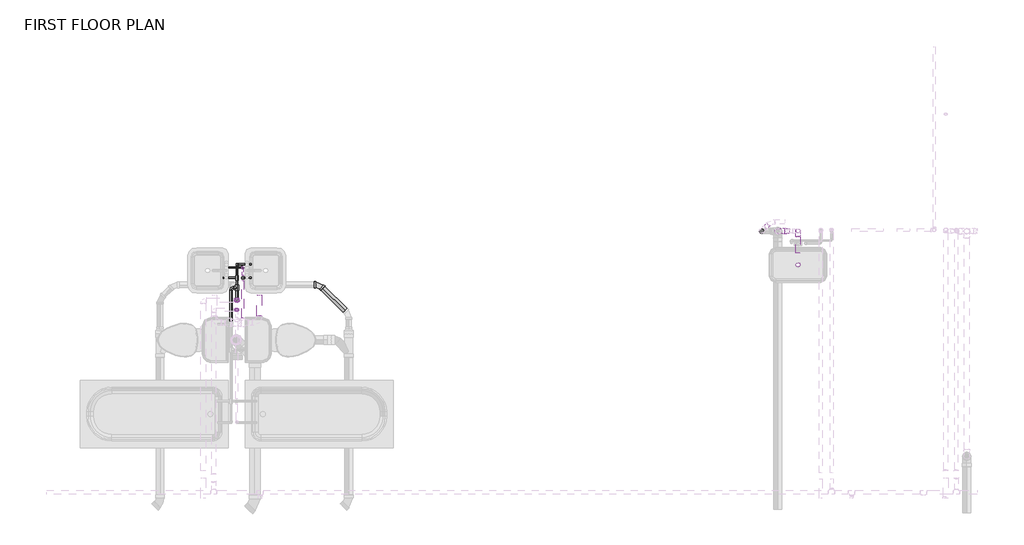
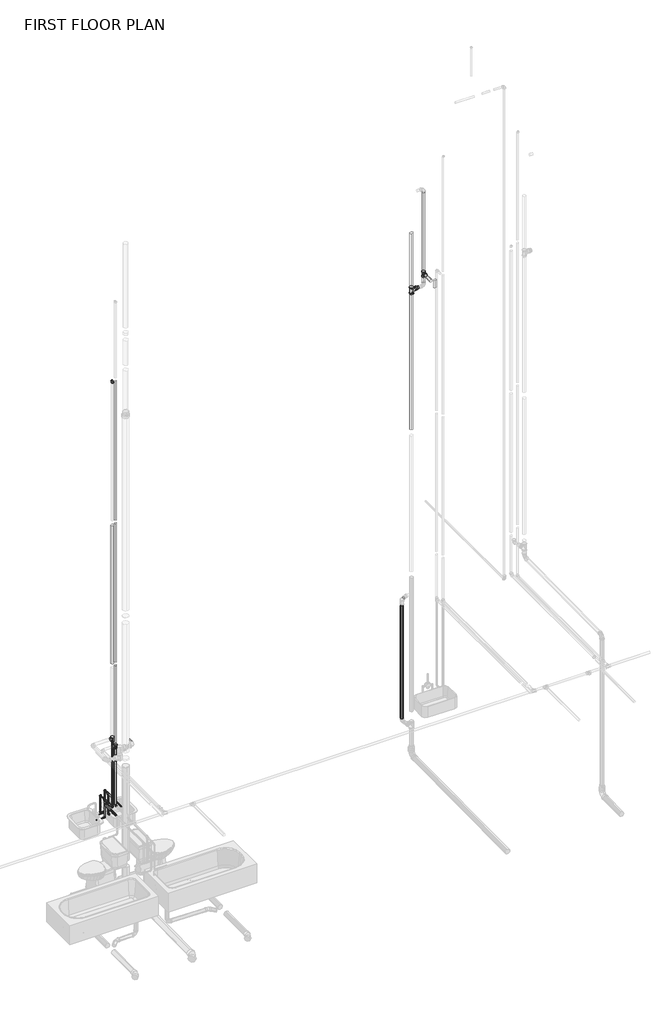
# One storey, part 15 of 29: 31 pipe segments, 28 pipe fittings.
"""IFC4 building model written with IfcOpenShell, lengths in millimetres."""

from ifc_helpers import new_model, si_unit, point, frame, frame_2d, origin, place, context, project, spatial, circle_curve, trimmed, segment, composite_curve, outline, extrude, transform, mapped, element, save
from ifc_brep_helpers import plane_surface, cylinder_surface, advanced_brep
from components import bend_pvc_sch_40_dwv_standard_cc806abd, pipe_elbow_copper_k_feaaf02c, pipe_elbow_copper_k_aad62f2d, pipe_elbow_copper_k_a25a5501, pipe_tee_copper_k_36278b8a, pipe_tee_copper_k_7127fd44, pipe_tee_copper_k_ee363fbf, pipe_tee_copper_k_feafe2f1, pipe_transition_copper_k_859ff352, pipe_transition_copper_k_a6a91236, pipe_transition_copper_k_b4f16853, pipe_transition_copper_k_5615079d, pipe_transition_copper_k_7e8f21d9, pipe_transition_copper_k_3e141881, reducer_pvc_sch_40_dwv_standard_f288b410, tee_sanitary_pvc_sch_40_dwv_standard_bd882a60, tee_sanitary_pvc_sch_40_dwv_standard_ad422280

model = new_model("IFC4")

# Units and contexts
model_context = context("Model", 3, world=origin())
ifc_project = project(units=[si_unit("LENGTHUNIT", "METRE", prefix="MILLI")], contexts=[model_context])

# Site, building, storey
site = spatial("IfcSite", under=ifc_project)
building = spatial("IfcBuilding", under=site)
storey = spatial("IfcBuildingStorey", under=building, Name="FIRST FLOOR PLAN", Elevation=0.0)

# Pipe fittings
placement = place(None, origin())
bend_pvc_sch_40_dwv_standard_shape = bend_pvc_sch_40_dwv_standard_cc806abd(model_context)
element("IfcPipeFitting", 1, ObjectType="Bend - PVC - Sch 40 - DWV : Standard", at=placement, inside=storey, context=model_context, shape_type="MappedRepresentation", body=[
    mapped(bend_pvc_sch_40_dwv_standard_shape, transform((3052.2165171, 8305.973803, -494.0419793), x_axis=(-0.7070684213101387, 0.707068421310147, 0.010416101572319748), y_axis=(-0.7070681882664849, -0.7071320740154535, 0.00433670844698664), z_axis=(0.01043190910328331, -0.004298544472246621, 0.99993634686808))),
])
pipe_elbow_copper_k_shape = pipe_elbow_copper_k_feaaf02c(model_context)
element("IfcPipeFitting", 2, ObjectType="Pipe Elbow : Copper- K", at=placement, inside=storey, context=model_context, shape_type="MappedRepresentation", body=[
    mapped(pipe_elbow_copper_k_shape, transform((2118.3084875, 8021.1606631, 1219.2), x_axis=(0.0, 0.0, -1.0), y_axis=(0.0, -1.0, 0.0), z_axis=(-1.0, 0.0, 0.0))),
])
pipe_elbow_copper_k_2_shape = pipe_elbow_copper_k_aad62f2d(model_context)
element("IfcPipeFitting", 3, ObjectType="Pipe Elbow : Copper- K", at=placement, inside=storey, context=model_context, shape_type="MappedRepresentation", body=[
    mapped(pipe_elbow_copper_k_2_shape, transform((2121.4834875, 8536.03262, 1117.6), x_axis=(0.0, 1.0, 0.0), y_axis=(0.0, 0.0, -1.0), z_axis=(-1.0, 0.0, 0.0))),
])
element("IfcPipeFitting", 4, ObjectType="Pipe Elbow : Copper- K", at=placement, inside=storey, context=model_context, shape_type="MappedRepresentation", body=[
    mapped(pipe_elbow_copper_k_2_shape, transform((2121.4834875, 8536.03262, 762.0), x_axis=(0.0, 0.0, -1.0), y_axis=(1.0, 0.0, 0.0), z_axis=(0.0, -1.0, 0.0))),
])
element("IfcPipeFitting", 5, ObjectType="Pipe Elbow : Copper- K", at=placement, inside=storey, context=model_context, shape_type="MappedRepresentation", body=[
    mapped(pipe_elbow_copper_k_2_shape, transform((2121.4834875, 8383.3740436, 762.0), x_axis=(0.0, 0.0, -1.0), y_axis=(-1.0, 0.0, 0.0), z_axis=(0.0, 1.0, 0.0))),
])
element("IfcPipeFitting", 6, ObjectType="Pipe Elbow : Copper- K", at=placement, inside=storey, context=model_context, shape_type="MappedRepresentation", body=[
    mapped(pipe_elbow_copper_k_2_shape, transform((2186.5709875, 8501.0968309, 1219.2), x_axis=(0.0, 1.0, 0.0), y_axis=(0.0, 0.0, -1.0), z_axis=(-1.0, 0.0, 0.0))),
])
element("IfcPipeFitting", 7, ObjectType="Pipe Elbow : Copper- K", at=placement, inside=storey, context=model_context, shape_type="MappedRepresentation", body=[
    mapped(pipe_elbow_copper_k_2_shape, transform((2186.5709875, 8501.0968309, 762.0), x_axis=(0.0, 0.0, -1.0), y_axis=(-1.0, 0.0, 0.0), z_axis=(0.0, 1.0, 0.0))),
])
element("IfcPipeFitting", 8, ObjectType="Pipe Elbow : Copper- K", at=placement, inside=storey, context=model_context, shape_type="MappedRepresentation", body=[
    mapped(pipe_elbow_copper_k_2_shape, transform((2186.5709875, 8383.3740436, 792.4601563), x_axis=(0.0, 0.0, -1.0), y_axis=(1.0, 0.0, 0.0), z_axis=(0.0, -1.0, 0.0))),
])
pipe_elbow_copper_k_3_shape = pipe_elbow_copper_k_a25a5501(model_context)
element("IfcPipeFitting", 9, ObjectType="Pipe Elbow : Copper- K", at=placement, inside=storey, context=model_context, shape_type="MappedRepresentation", body=[
    mapped(pipe_elbow_copper_k_3_shape, transform((2054.8084875, 8271.1092908, 1117.6), x_axis=(-1.0, 0.0, 0.0), y_axis=(0.0, -1.0, 0.0), z_axis=(0.0, 0.0, 1.0))),
])
element("IfcPipeFitting", 10, ObjectType="Pipe Elbow : Copper- K", at=placement, inside=storey, context=model_context, shape_type="MappedRepresentation", body=[
    mapped(pipe_elbow_copper_k_3_shape, transform((2121.4834875, 8129.4757881, 1117.6), x_axis=(0.0, 0.0, -1.0), y_axis=(0.0, 1.0, 0.0), z_axis=(1.0, 0.0, 0.0))),
])
element("IfcPipeFitting", 11, ObjectType="Pipe Elbow : Copper- K", at=placement, inside=storey, context=model_context, shape_type="MappedRepresentation", body=[
    mapped(pipe_elbow_copper_k_3_shape, transform((2121.4834875, 8129.4757881, 9652.0), x_axis=(0.0, 0.0, 1.0), y_axis=(0.0, 1.0, 0.0), z_axis=(-1.0, 0.0, 0.0))),
])
pipe_tee_copper_k_shape = pipe_tee_copper_k_36278b8a(model_context)
element("IfcPipeFitting", 12, ObjectType="Pipe Tee : Copper- K", at=placement, inside=storey, context=model_context, shape_type="MappedRepresentation", body=[
    mapped(pipe_tee_copper_k_shape, transform((2121.4834875, 8129.4757881, 2490.6882812), x_axis=(0.0, 0.0, -1.0), y_axis=(1.0, 0.0, 0.0), z_axis=(0.0, -1.0, 0.0))),
])
pipe_tee_copper_k_2_shape = pipe_tee_copper_k_7127fd44(model_context)
element("IfcPipeFitting", 13, ObjectType="Pipe Tee : Copper- K", at=placement, inside=storey, context=model_context, shape_type="MappedRepresentation", body=[
    mapped(pipe_tee_copper_k_2_shape, transform((2118.3084875, 8021.1606631, 2413.0), x_axis=(0.0, 0.0, -1.0), y_axis=(1.0, 0.0, 0.0), z_axis=(0.0, -1.0, 0.0))),
])
pipe_tee_copper_k_3_shape = pipe_tee_copper_k_ee363fbf(model_context)
element("IfcPipeFitting", 14, ObjectType="Pipe Tee : Copper- K", at=placement, inside=storey, context=model_context, shape_type="MappedRepresentation", body=[
    mapped(pipe_tee_copper_k_3_shape, transform((2121.4834875, 8383.3740436, 1117.6), x_axis=(0.0, -1.0, 0.0), y_axis=(0.0, 0.0, 1.0), z_axis=(-1.0, 0.0, 0.0))),
])
element("IfcPipeFitting", 15, ObjectType="Pipe Tee : Copper- K", at=placement, inside=storey, context=model_context, shape_type="MappedRepresentation", body=[
    mapped(pipe_tee_copper_k_3_shape, transform((2186.5709875, 8383.3740436, 1219.2), x_axis=(0.0, -1.0, 0.0), y_axis=(0.0, 0.0, 1.0), z_axis=(-1.0, 0.0, 0.0))),
])
pipe_tee_copper_k_4_shape = pipe_tee_copper_k_feafe2f1(model_context)
element("IfcPipeFitting", 16, ObjectType="Pipe Tee : Copper- K", at=placement, inside=storey, context=model_context, shape_type="MappedRepresentation", body=[
    mapped(pipe_tee_copper_k_4_shape, transform((2121.4834875, 8271.1092908, 1117.6), x_axis=(0.0, -1.0, 0.0), y_axis=(1.0, 0.0, 0.0), z_axis=(0.0, 0.0, 1.0))),
])
pipe_transition_copper_k_shape = pipe_transition_copper_k_859ff352(model_context)
element("IfcPipeFitting", 17, ObjectType="Pipe Transition : Copper- K", at=placement, inside=storey, context=model_context, shape_type="MappedRepresentation", body=[
    mapped(pipe_transition_copper_k_shape, transform((2121.4834875, 8383.3740436, 1090.6125), x_axis=(0.0, 0.0, -1.0), y_axis=(0.0, -1.0, 0.0), z_axis=(-1.0, 0.0, 0.0))),
])
element("IfcPipeFitting", 18, ObjectType="Pipe Transition : Copper- K", at=placement, inside=storey, context=model_context, shape_type="MappedRepresentation", body=[
    mapped(pipe_transition_copper_k_shape, transform((2121.4834875, 8410.3615436, 1117.6), x_axis=(0.0, 1.0, 0.0), y_axis=(-1.0, 0.0, 0.0), z_axis=(0.0, 0.0, 1.0))),
])
element("IfcPipeFitting", 19, ObjectType="Pipe Transition : Copper- K", at=placement, inside=storey, context=model_context, shape_type="MappedRepresentation", body=[
    mapped(pipe_transition_copper_k_shape, transform((2186.5709875, 8383.3740436, 1192.2125), x_axis=(0.0, 0.0, -1.0), y_axis=(0.0, 1.0, 0.0), z_axis=(1.0, 0.0, 0.0))),
])
element("IfcPipeFitting", 20, ObjectType="Pipe Transition : Copper- K", at=placement, inside=storey, context=model_context, shape_type="MappedRepresentation", body=[
    mapped(pipe_transition_copper_k_shape, transform((2186.5709875, 8410.3615436, 1219.2), x_axis=(0.0, 1.0, 0.0), y_axis=(-1.0, 0.0, 0.0), z_axis=(0.0, 0.0, 1.0))),
])
pipe_transition_copper_k_2_shape = pipe_transition_copper_k_a6a91236(model_context)
element("IfcPipeFitting", 21, ObjectType="Pipe Transition : Copper- K", at=placement, inside=storey, context=model_context, shape_type="MappedRepresentation", body=[
    mapped(pipe_transition_copper_k_2_shape, transform((2121.4834875, 8129.4757881, 2447.8257813), x_axis=(0.0, 0.0, -1.0), y_axis=(1.0, 0.0, 0.0), z_axis=(0.0, -1.0, 0.0))),
])
pipe_transition_copper_k_3_shape = pipe_transition_copper_k_b4f16853(model_context)
element("IfcPipeFitting", 22, ObjectType="Pipe Transition : Copper- K", at=placement, inside=storey, context=model_context, shape_type="MappedRepresentation", body=[
    mapped(pipe_transition_copper_k_3_shape, transform((2121.4834875, 8301.2717908, 1117.6), x_axis=(0.0, 1.0, 0.0), y_axis=(-1.0, 0.0, 0.0), z_axis=(0.0, 0.0, 1.0))),
])
pipe_transition_copper_k_4_shape = pipe_transition_copper_k_5615079d(model_context)
element("IfcPipeFitting", 23, ObjectType="Pipe Transition : Copper- K", at=placement, inside=storey, context=model_context, shape_type="MappedRepresentation", body=[
    mapped(pipe_transition_copper_k_4_shape, transform((2118.3084875, 8021.1606631, 2376.4875), x_axis=(0.0, 0.0, -1.0), y_axis=(-1.0, 0.0, 0.0), z_axis=(0.0, 1.0, 0.0))),
])
pipe_transition_copper_k_5_shape = pipe_transition_copper_k_7e8f21d9(model_context)
element("IfcPipeFitting", 24, ObjectType="Pipe Transition : Copper- K", at=placement, inside=storey, context=model_context, shape_type="MappedRepresentation", body=[
    mapped(pipe_transition_copper_k_5_shape, transform((2118.3084875, 8021.1606631, 1239.8375), x_axis=(0.0, 0.0, 1.0), y_axis=(1.0, 0.0, 0.0), z_axis=(0.0, 1.0, 0.0))),
])
pipe_transition_copper_k_6_shape = pipe_transition_copper_k_3e141881(model_context)
element("IfcPipeFitting", 25, ObjectType="Pipe Transition : Copper- K", at=placement, inside=storey, context=model_context, shape_type="MappedRepresentation", body=[
    mapped(pipe_transition_copper_k_6_shape, transform((2121.4834875, 8129.4757881, 9619.45625), x_axis=(0.0, 0.0, 1.0), y_axis=(1.0, 0.0, 0.0), z_axis=(0.0, 1.0, 0.0))),
])
reducer_pvc_sch_40_dwv_standard_shape = reducer_pvc_sch_40_dwv_standard_f288b410(model_context)
element("IfcPipeFitting", 26, ObjectType="Reducer - PVC - Sch 40 - DWV : Standard", at=placement, inside=storey, context=model_context, shape_type="MappedRepresentation", body=[
    mapped(reducer_pvc_sch_40_dwv_standard_shape, transform((8314.9133037, 8911.4608349, 8871.5007265), x_axis=(0.9999457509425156, 0.0, 0.010416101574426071), y_axis=(0.0, 1.0000000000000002, 0.0), z_axis=(-0.010416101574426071, 0.0, 0.9999457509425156))),
])
tee_sanitary_pvc_sch_40_dwv_standard_shape = tee_sanitary_pvc_sch_40_dwv_standard_bd882a60(model_context)
element("IfcPipeFitting", 27, ObjectType="Tee Sanitary - PVC - Sch 40 - DWV : Standard", at=placement, inside=storey, context=model_context, shape_type="MappedRepresentation", body=[
    mapped(tee_sanitary_pvc_sch_40_dwv_standard_shape, transform((8237.1173243, 8911.4608349, 8870.6903518), x_axis=(0.0, 0.0, 1.0), y_axis=(-1.0, 0.0, 0.0), z_axis=(0.0, -1.0, 0.0))),
])
tee_sanitary_pvc_sch_40_dwv_standard_2_shape = tee_sanitary_pvc_sch_40_dwv_standard_ad422280(model_context)
element("IfcPipeFitting", 28, ObjectType="Tee Sanitary - PVC - Sch 40 - DWV : Standard", at=placement, inside=storey, context=model_context, shape_type="MappedRepresentation", body=[
    mapped(tee_sanitary_pvc_sch_40_dwv_standard_2_shape, transform((8467.5209875, 8912.11907, 9112.4170389), x_axis=(0.0, 0.0, 1.0), y_axis=(0.0, 1.0, 0.0), z_axis=(-1.0, 0.0, 0.0))),
])

# Pipe segments
element("IfcPipeSegment", 29, ObjectType="Copper", at=placement, inside=storey, context=model_context, shape_type="SweptSolid", body=[
    extrude(outline(composite_curve([segment(trimmed(circle_curve(frame_2d((2118.3084875, 8021.1606631)), 20.6375), [point((2097.6709875, 8021.1606631))], [point((2118.3084875, 8041.7981631))], False, "CARTESIAN"), True, "CONTINUOUS"), segment(trimmed(circle_curve(frame_2d((2118.3084875, 8021.1606631)), 20.6375), [point((2118.3084875, 8041.7981631))], [point((2138.9459875, 8021.1606631))], False, "CARTESIAN"), True, "CONTINUOUS"), segment(trimmed(circle_curve(frame_2d((2118.3084875, 8021.1606631)), 20.6375), [point((2138.9459875, 8021.1606631))], [point((2118.3084875, 8000.5231631))], False, "CARTESIAN"), True, "CONTINUOUS"), segment(trimmed(circle_curve(frame_2d((2118.3084875, 8021.1606631)), 20.6375), [point((2118.3084875, 8000.5231631))], [point((2097.6709875, 8021.1606631))], False, "CARTESIAN"), True, "CONTINUOUS")], self_intersect=False)), frame((0.0, 0.0, 2449.5125), z_axis=(0.0, 0.0, 1.0), x_axis=(1.0, 0.0, 0.0)), (0.0, 0.0, 1.0), 1577.975),
])
element("IfcPipeSegment", 30, ObjectType="Copper", at=placement, inside=storey, context=model_context, shape_type="SweptSolid", body=[
    extrude(outline(composite_curve([segment(trimmed(circle_curve(frame_2d((1117.6, 2121.4834875)), 7.9375), [point((1117.6, 2129.4209875))], [point((1125.5375, 2121.4834875))], False, "CARTESIAN"), True, "CONTINUOUS"), segment(trimmed(circle_curve(frame_2d((1117.6, 2121.4834875)), 7.9375), [point((1125.5375, 2121.4834875))], [point((1117.6, 2113.5459875))], False, "CARTESIAN"), True, "CONTINUOUS"), segment(trimmed(circle_curve(frame_2d((1117.6, 2121.4834875)), 7.9375), [point((1117.6, 2113.5459875))], [point((1109.6625, 2121.4834875))], False, "CARTESIAN"), True, "CONTINUOUS"), segment(trimmed(circle_curve(frame_2d((1117.6, 2121.4834875)), 7.9375), [point((1109.6625, 2121.4834875))], [point((1117.6, 2129.4209875))], False, "CARTESIAN"), True, "CONTINUOUS")], self_intersect=False)), frame((0.0, 8415.9177936, 0.0), z_axis=(0.0, 1.0, 0.0), x_axis=(0.0, 0.0, 1.0)), (0.0, 0.0, 1.0), 102.6523264),
])
element("IfcPipeSegment", 31, ObjectType="Copper", at=placement, inside=storey, context=model_context, shape_type="SweptSolid", body=[
    extrude(outline(composite_curve([segment(trimmed(circle_curve(frame_2d((8536.03262, 762.0)), 7.9375), [point((8528.09512, 762.0))], [point((8536.03262, 769.9375))], False, "CARTESIAN"), True, "CONTINUOUS"), segment(trimmed(circle_curve(frame_2d((8536.03262, 762.0)), 7.9375), [point((8536.03262, 769.9375))], [point((8543.97012, 762.0))], False, "CARTESIAN"), True, "CONTINUOUS"), segment(trimmed(circle_curve(frame_2d((8536.03262, 762.0)), 7.9375), [point((8543.97012, 762.0))], [point((8536.03262, 754.0625))], False, "CARTESIAN"), True, "CONTINUOUS"), segment(trimmed(circle_curve(frame_2d((8536.03262, 762.0)), 7.9375), [point((8536.03262, 754.0625))], [point((8528.09512, 762.0))], False, "CARTESIAN"), True, "CONTINUOUS")], self_intersect=False)), frame((2138.9459875, 0.0, 0.0), z_axis=(1.0, 0.0, 0.0), x_axis=(0.0, 1.0, 0.0)), (0.0, 0.0, 1.0), 141.2875),
])
element("IfcPipeSegment", 32, ObjectType="Copper", at=placement, inside=storey, context=model_context, shape_type="SweptSolid", body=[
    extrude(outline(composite_curve([segment(trimmed(circle_curve(frame_2d((2121.4834875, 8536.03262)), 7.9375), [point((2129.4209875, 8536.03262))], [point((2121.4834875, 8528.09512))], False, "CARTESIAN"), True, "CONTINUOUS"), segment(trimmed(circle_curve(frame_2d((2121.4834875, 8536.03262)), 7.9375), [point((2121.4834875, 8528.09512))], [point((2113.5459875, 8536.03262))], False, "CARTESIAN"), True, "CONTINUOUS"), segment(trimmed(circle_curve(frame_2d((2121.4834875, 8536.03262)), 7.9375), [point((2113.5459875, 8536.03262))], [point((2121.4834875, 8543.97012))], False, "CARTESIAN"), True, "CONTINUOUS"), segment(trimmed(circle_curve(frame_2d((2121.4834875, 8536.03262)), 7.9375), [point((2121.4834875, 8543.97012))], [point((2129.4209875, 8536.03262))], False, "CARTESIAN"), True, "CONTINUOUS")], self_intersect=False)), frame((0.0, 0.0, 779.4625), z_axis=(0.0, 0.0, 1.0), x_axis=(1.0, 0.0, 0.0)), (0.0, 0.0, 1.0), 320.675),
])
element("IfcPipeSegment", 33, ObjectType="Copper", at=placement, inside=storey, context=model_context, shape_type="SweptSolid", body=[
    extrude(outline(composite_curve([segment(trimmed(circle_curve(frame_2d((8383.3740436, 762.0)), 7.9375), [point((8391.3115436, 762.0))], [point((8383.3740436, 754.0625))], False, "CARTESIAN"), True, "CONTINUOUS"), segment(trimmed(circle_curve(frame_2d((8383.3740436, 762.0)), 7.9375), [point((8383.3740436, 754.0625))], [point((8375.4365436, 762.0))], False, "CARTESIAN"), True, "CONTINUOUS"), segment(trimmed(circle_curve(frame_2d((8383.3740436, 762.0)), 7.9375), [point((8375.4365436, 762.0))], [point((8383.3740436, 769.9375))], False, "CARTESIAN"), True, "CONTINUOUS"), segment(trimmed(circle_curve(frame_2d((8383.3740436, 762.0)), 7.9375), [point((8383.3740436, 769.9375))], [point((8391.3115436, 762.0))], False, "CARTESIAN"), True, "CONTINUOUS")], self_intersect=False)), frame((1967.4959875, 0.0, 0.0), z_axis=(1.0, 0.0, 0.0), x_axis=(0.0, 1.0, 0.0)), (0.0, 0.0, 1.0), 136.525),
])
element("IfcPipeSegment", 34, ObjectType="Copper", at=placement, inside=storey, context=model_context, shape_type="SweptSolid", body=[
    extrude(outline(composite_curve([segment(trimmed(circle_curve(frame_2d((2121.4834875, 8383.3740436)), 7.9375), [point((2129.4209875, 8383.3740436))], [point((2121.4834875, 8375.4365436))], False, "CARTESIAN"), True, "CONTINUOUS"), segment(trimmed(circle_curve(frame_2d((2121.4834875, 8383.3740436)), 7.9375), [point((2121.4834875, 8375.4365436))], [point((2113.5459875, 8383.3740436))], False, "CARTESIAN"), True, "CONTINUOUS"), segment(trimmed(circle_curve(frame_2d((2121.4834875, 8383.3740436)), 7.9375), [point((2113.5459875, 8383.3740436))], [point((2121.4834875, 8391.3115436))], False, "CARTESIAN"), True, "CONTINUOUS"), segment(trimmed(circle_curve(frame_2d((2121.4834875, 8383.3740436)), 7.9375), [point((2121.4834875, 8391.3115436))], [point((2129.4209875, 8383.3740436))], False, "CARTESIAN"), True, "CONTINUOUS")], self_intersect=False)), frame((0.0, 0.0, 779.4625), z_axis=(0.0, 0.0, 1.0), x_axis=(1.0, 0.0, 0.0)), (0.0, 0.0, 1.0), 305.59375),
])
element("IfcPipeSegment", 35, ObjectType="Copper", at=placement, inside=storey, context=model_context, shape_type="SweptSolid", body=[
    extrude(outline(composite_curve([segment(trimmed(circle_curve(frame_2d((1117.6, 2121.4834875)), 11.1125), [point((1117.6, 2132.5959875))], [point((1128.7125, 2121.4834875))], False, "CARTESIAN"), True, "CONTINUOUS"), segment(trimmed(circle_curve(frame_2d((1117.6, 2121.4834875)), 11.1125), [point((1128.7125, 2121.4834875))], [point((1117.6, 2110.3709875))], False, "CARTESIAN"), True, "CONTINUOUS"), segment(trimmed(circle_curve(frame_2d((1117.6, 2121.4834875)), 11.1125), [point((1117.6, 2110.3709875))], [point((1106.4875, 2121.4834875))], False, "CARTESIAN"), True, "CONTINUOUS"), segment(trimmed(circle_curve(frame_2d((1117.6, 2121.4834875)), 11.1125), [point((1106.4875, 2121.4834875))], [point((1117.6, 2132.5959875))], False, "CARTESIAN"), True, "CONTINUOUS")], self_intersect=False)), frame((0.0, 8308.4155408, 0.0), z_axis=(0.0, 1.0, 0.0), x_axis=(0.0, 0.0, 1.0)), (0.0, 0.0, 1.0), 47.9710027),
])
element("IfcPipeSegment", 36, ObjectType="Copper", at=placement, inside=storey, context=model_context, shape_type="SweptSolid", body=[
    extrude(outline(composite_curve([segment(trimmed(circle_curve(frame_2d((1219.2, 2186.5709875)), 7.9375), [point((1219.2, 2194.5084875))], [point((1227.1375, 2186.5709875))], False, "CARTESIAN"), True, "CONTINUOUS"), segment(trimmed(circle_curve(frame_2d((1219.2, 2186.5709875)), 7.9375), [point((1227.1375, 2186.5709875))], [point((1219.2, 2178.6334875))], False, "CARTESIAN"), True, "CONTINUOUS"), segment(trimmed(circle_curve(frame_2d((1219.2, 2186.5709875)), 7.9375), [point((1219.2, 2178.6334875))], [point((1211.2625, 2186.5709875))], False, "CARTESIAN"), True, "CONTINUOUS"), segment(trimmed(circle_curve(frame_2d((1219.2, 2186.5709875)), 7.9375), [point((1211.2625, 2186.5709875))], [point((1219.2, 2194.5084875))], False, "CARTESIAN"), True, "CONTINUOUS")], self_intersect=False)), frame((0.0, 8415.9177936, 0.0), z_axis=(0.0, 1.0, 0.0), x_axis=(0.0, 0.0, 1.0)), (0.0, 0.0, 1.0), 67.7165373),
])
element("IfcPipeSegment", 37, ObjectType="Copper", at=placement, inside=storey, context=model_context, shape_type="SweptSolid", body=[
    extrude(outline(composite_curve([segment(trimmed(circle_curve(frame_2d((8501.0968309, 762.0)), 7.9375), [point((8509.0343309, 762.0))], [point((8501.0968309, 754.0625))], False, "CARTESIAN"), True, "CONTINUOUS"), segment(trimmed(circle_curve(frame_2d((8501.0968309, 762.0)), 7.9375), [point((8501.0968309, 754.0625))], [point((8493.1593309, 762.0))], False, "CARTESIAN"), True, "CONTINUOUS"), segment(trimmed(circle_curve(frame_2d((8501.0968309, 762.0)), 7.9375), [point((8493.1593309, 762.0))], [point((8501.0968309, 769.9375))], False, "CARTESIAN"), True, "CONTINUOUS"), segment(trimmed(circle_curve(frame_2d((8501.0968309, 762.0)), 7.9375), [point((8501.0968309, 769.9375))], [point((8509.0343309, 762.0))], False, "CARTESIAN"), True, "CONTINUOUS")], self_intersect=False)), frame((2002.4209875, 0.0, 0.0), z_axis=(1.0, 0.0, 0.0), x_axis=(0.0, 1.0, 0.0)), (0.0, 0.0, 1.0), 166.6875),
])
element("IfcPipeSegment", 38, ObjectType="Copper", at=placement, inside=storey, context=model_context, shape_type="SweptSolid", body=[
    extrude(outline(composite_curve([segment(trimmed(circle_curve(frame_2d((2186.5709875, 8501.0968309)), 7.9375), [point((2194.5084875, 8501.0968309))], [point((2186.5709875, 8493.1593309))], False, "CARTESIAN"), True, "CONTINUOUS"), segment(trimmed(circle_curve(frame_2d((2186.5709875, 8501.0968309)), 7.9375), [point((2186.5709875, 8493.1593309))], [point((2178.6334875, 8501.0968309))], False, "CARTESIAN"), True, "CONTINUOUS"), segment(trimmed(circle_curve(frame_2d((2186.5709875, 8501.0968309)), 7.9375), [point((2178.6334875, 8501.0968309))], [point((2186.5709875, 8509.0343309))], False, "CARTESIAN"), True, "CONTINUOUS"), segment(trimmed(circle_curve(frame_2d((2186.5709875, 8501.0968309)), 7.9375), [point((2186.5709875, 8509.0343309))], [point((2194.5084875, 8501.0968309))], False, "CARTESIAN"), True, "CONTINUOUS")], self_intersect=False)), frame((0.0, 0.0, 779.4625), z_axis=(0.0, 0.0, 1.0), x_axis=(1.0, 0.0, 0.0)), (0.0, 0.0, 1.0), 422.275),
])
element("IfcPipeSegment", 39, ObjectType="Copper", at=placement, inside=storey, context=model_context, shape_type="SweptSolid", body=[
    extrude(outline(composite_curve([segment(trimmed(circle_curve(frame_2d((8383.3740436, 792.4601562)), 7.9375), [point((8375.4365436, 792.4601562))], [point((8383.3740436, 800.3976562))], False, "CARTESIAN"), True, "CONTINUOUS"), segment(trimmed(circle_curve(frame_2d((8383.3740436, 792.4601562)), 7.9375), [point((8383.3740436, 800.3976562))], [point((8391.3115436, 792.4601562))], False, "CARTESIAN"), True, "CONTINUOUS"), segment(trimmed(circle_curve(frame_2d((8383.3740436, 792.4601562)), 7.9375), [point((8391.3115436, 792.4601562))], [point((8383.3740436, 784.5226562))], False, "CARTESIAN"), True, "CONTINUOUS"), segment(trimmed(circle_curve(frame_2d((8383.3740436, 792.4601562)), 7.9375), [point((8383.3740436, 784.5226562))], [point((8375.4365436, 792.4601562))], False, "CARTESIAN"), True, "CONTINUOUS")], self_intersect=False)), frame((2204.0334875, 0.0, 0.0), z_axis=(1.0, 0.0, 0.0), x_axis=(0.0, 1.0, 0.0)), (0.0, 0.0, 1.0), 76.2),
])
element("IfcPipeSegment", 40, ObjectType="Copper", at=placement, inside=storey, context=model_context, shape_type="SweptSolid", body=[
    extrude(outline(composite_curve([segment(trimmed(circle_curve(frame_2d((2186.5709875, 8383.3740436)), 7.9375), [point((2194.5084875, 8383.3740436))], [point((2186.5709875, 8375.4365436))], False, "CARTESIAN"), True, "CONTINUOUS"), segment(trimmed(circle_curve(frame_2d((2186.5709875, 8383.3740436)), 7.9375), [point((2186.5709875, 8375.4365436))], [point((2178.6334875, 8383.3740436))], False, "CARTESIAN"), True, "CONTINUOUS"), segment(trimmed(circle_curve(frame_2d((2186.5709875, 8383.3740436)), 7.9375), [point((2178.6334875, 8383.3740436))], [point((2186.5709875, 8391.3115436))], False, "CARTESIAN"), True, "CONTINUOUS"), segment(trimmed(circle_curve(frame_2d((2186.5709875, 8383.3740436)), 7.9375), [point((2186.5709875, 8391.3115436))], [point((2194.5084875, 8383.3740436))], False, "CARTESIAN"), True, "CONTINUOUS")], self_intersect=False)), frame((0.0, 0.0, 809.9226562), z_axis=(0.0, 0.0, 1.0), x_axis=(1.0, 0.0, 0.0)), (0.0, 0.0, 1.0), 376.7335937),
])
element("IfcPipeSegment", 41, ObjectType="Copper", at=placement, inside=storey, context=model_context, shape_type="SweptSolid", body=[
    extrude(outline(composite_curve([segment(trimmed(circle_curve(frame_2d((1219.2, 2186.5709875)), 11.1125), [point((1219.2, 2197.6834875))], [point((1230.3125, 2186.5709875))], False, "CARTESIAN"), True, "CONTINUOUS"), segment(trimmed(circle_curve(frame_2d((1219.2, 2186.5709875)), 11.1125), [point((1230.3125, 2186.5709875))], [point((1219.2, 2175.4584875))], False, "CARTESIAN"), True, "CONTINUOUS"), segment(trimmed(circle_curve(frame_2d((1219.2, 2186.5709875)), 11.1125), [point((1219.2, 2175.4584875))], [point((1208.0875, 2186.5709875))], False, "CARTESIAN"), True, "CONTINUOUS"), segment(trimmed(circle_curve(frame_2d((1219.2, 2186.5709875)), 11.1125), [point((1208.0875, 2186.5709875))], [point((1219.2, 2197.6834875))], False, "CARTESIAN"), True, "CONTINUOUS")], self_intersect=False)), frame((0.0, 7931.1843309, 0.0), z_axis=(0.0, 1.0, 0.0), x_axis=(0.0, 0.0, 1.0)), (0.0, 0.0, 1.0), 425.2022127),
])
element("IfcPipeSegment", 42, ObjectType="Copper", at=placement, inside=storey, context=model_context, shape_type="SweptSolid", body=[
    extrude(outline(composite_curve([segment(trimmed(circle_curve(frame_2d((8271.1092908, 1117.6)), 14.2875), [point((8285.3967908, 1117.6))], [point((8271.1092908, 1103.3125))], False, "CARTESIAN"), True, "CONTINUOUS"), segment(trimmed(circle_curve(frame_2d((8271.1092908, 1117.6)), 14.2875), [point((8271.1092908, 1103.3125))], [point((8256.8217908, 1117.6))], False, "CARTESIAN"), True, "CONTINUOUS"), segment(trimmed(circle_curve(frame_2d((8271.1092908, 1117.6)), 14.2875), [point((8256.8217908, 1117.6))], [point((8271.1092908, 1131.8875))], False, "CARTESIAN"), True, "CONTINUOUS"), segment(trimmed(circle_curve(frame_2d((8271.1092908, 1117.6)), 14.2875), [point((8271.1092908, 1131.8875))], [point((8285.3967908, 1117.6))], False, "CARTESIAN"), True, "CONTINUOUS")], self_intersect=False)), frame((2078.6209875, 0.0, 0.0), z_axis=(1.0, 0.0, 0.0), x_axis=(0.0, 1.0, 0.0)), (0.0, 0.0, 1.0), 12.7),
])
element("IfcPipeSegment", 43, ObjectType="Copper", at=placement, inside=storey, context=model_context, shape_type="SweptSolid", body=[
    extrude(outline(composite_curve([segment(trimmed(circle_curve(frame_2d((1117.6, 2121.4834875)), 14.2875), [point((1117.6, 2107.1959875))], [point((1103.3125, 2121.4834875))], False, "CARTESIAN"), True, "CONTINUOUS"), segment(trimmed(circle_curve(frame_2d((1117.6, 2121.4834875)), 14.2875), [point((1103.3125, 2121.4834875))], [point((1117.6, 2135.7709875))], False, "CARTESIAN"), True, "CONTINUOUS"), segment(trimmed(circle_curve(frame_2d((1117.6, 2121.4834875)), 14.2875), [point((1117.6, 2135.7709875))], [point((1131.8875, 2121.4834875))], False, "CARTESIAN"), True, "CONTINUOUS"), segment(trimmed(circle_curve(frame_2d((1117.6, 2121.4834875)), 14.2875), [point((1131.8875, 2121.4834875))], [point((1117.6, 2107.1959875))], False, "CARTESIAN"), True, "CONTINUOUS")], self_intersect=False)), frame((0.0, 8153.2882881, 0.0), z_axis=(0.0, 1.0, 0.0), x_axis=(0.0, 0.0, 1.0)), (0.0, 0.0, 1.0), 87.6585027),
])
element("IfcPipeSegment", 44, ObjectType="Copper", at=placement, inside=storey, context=model_context, shape_type="SweptSolid", body=[
    extrude(outline(composite_curve([segment(trimmed(circle_curve(frame_2d((1117.6, 2054.8084875)), 14.2875), [point((1117.6, 2040.5209875))], [point((1103.3125, 2054.8084875))], False, "CARTESIAN"), True, "CONTINUOUS"), segment(trimmed(circle_curve(frame_2d((1117.6, 2054.8084875)), 14.2875), [point((1103.3125, 2054.8084875))], [point((1117.6, 2069.0959875))], False, "CARTESIAN"), True, "CONTINUOUS"), segment(trimmed(circle_curve(frame_2d((1117.6, 2054.8084875)), 14.2875), [point((1117.6, 2069.0959875))], [point((1131.8875, 2054.8084875))], False, "CARTESIAN"), True, "CONTINUOUS"), segment(trimmed(circle_curve(frame_2d((1117.6, 2054.8084875)), 14.2875), [point((1131.8875, 2054.8084875))], [point((1117.6, 2040.5209875))], False, "CARTESIAN"), True, "CONTINUOUS")], self_intersect=False)), frame((0.0, 7889.5153944, 0.0), z_axis=(0.0, 1.0, 0.0), x_axis=(0.0, 0.0, 1.0)), (0.0, 0.0, 1.0), 357.7813964),
])
element("IfcPipeSegment", 45, ObjectType="Copper", at=placement, inside=storey, context=model_context, shape_type="SweptSolid", body=[
    extrude(outline(composite_curve([segment(trimmed(circle_curve(frame_2d((2118.3084875, 8021.1606631)), 14.2875), [point((2132.5959875, 8021.1606631))], [point((2118.3084875, 8006.8731631))], False, "CARTESIAN"), True, "CONTINUOUS"), segment(trimmed(circle_curve(frame_2d((2118.3084875, 8021.1606631)), 14.2875), [point((2118.3084875, 8006.8731631))], [point((2104.0209875, 8021.1606631))], False, "CARTESIAN"), True, "CONTINUOUS"), segment(trimmed(circle_curve(frame_2d((2118.3084875, 8021.1606631)), 14.2875), [point((2104.0209875, 8021.1606631))], [point((2118.3084875, 8035.4481631))], False, "CARTESIAN"), True, "CONTINUOUS"), segment(trimmed(circle_curve(frame_2d((2118.3084875, 8021.1606631)), 14.2875), [point((2118.3084875, 8035.4481631))], [point((2132.5959875, 8021.1606631))], False, "CARTESIAN"), True, "CONTINUOUS")], self_intersect=False)), frame((0.0, 0.0, 1243.409375), z_axis=(0.0, 0.0, 1.0), x_axis=(1.0, 0.0, 0.0)), (0.0, 0.0, 1.0), 1122.759375),
])
element("IfcPipeSegment", 46, ObjectType="Copper", at=placement, inside=storey, context=model_context, shape_type="SweptSolid", body=[
    extrude(outline(composite_curve([segment(trimmed(circle_curve(frame_2d((2121.4834875, 8129.4757881)), 14.2875), [point((2135.7709875, 8129.4757881))], [point((2121.4834875, 8115.1882881))], False, "CARTESIAN"), True, "CONTINUOUS"), segment(trimmed(circle_curve(frame_2d((2121.4834875, 8129.4757881)), 14.2875), [point((2121.4834875, 8115.1882881))], [point((2107.1959875, 8129.4757881))], False, "CARTESIAN"), True, "CONTINUOUS"), segment(trimmed(circle_curve(frame_2d((2121.4834875, 8129.4757881)), 14.2875), [point((2107.1959875, 8129.4757881))], [point((2121.4834875, 8143.7632881))], False, "CARTESIAN"), True, "CONTINUOUS"), segment(trimmed(circle_curve(frame_2d((2121.4834875, 8129.4757881)), 14.2875), [point((2121.4834875, 8143.7632881))], [point((2135.7709875, 8129.4757881))], False, "CARTESIAN"), True, "CONTINUOUS")], self_intersect=False)), frame((0.0, 0.0, 1141.4125), z_axis=(0.0, 0.0, 1.0), x_axis=(1.0, 0.0, 0.0)), (0.0, 0.0, 1.0), 1292.9195313),
])
element("IfcPipeSegment", 47, ObjectType="Copper", at=placement, inside=storey, context=model_context, shape_type="SweptSolid", body=[
    extrude(outline(composite_curve([segment(trimmed(circle_curve(frame_2d((2121.4834875, 8129.4757881)), 26.9875), [point((2094.4959875, 8129.4757881))], [point((2121.4834875, 8156.4632881))], False, "CARTESIAN"), True, "CONTINUOUS"), segment(trimmed(circle_curve(frame_2d((2121.4834875, 8129.4757881)), 26.9875), [point((2121.4834875, 8156.4632881))], [point((2148.4709875, 8129.4757881))], False, "CARTESIAN"), True, "CONTINUOUS"), segment(trimmed(circle_curve(frame_2d((2121.4834875, 8129.4757881)), 26.9875), [point((2148.4709875, 8129.4757881))], [point((2121.4834875, 8102.4882881))], False, "CARTESIAN"), True, "CONTINUOUS"), segment(trimmed(circle_curve(frame_2d((2121.4834875, 8129.4757881)), 26.9875), [point((2121.4834875, 8102.4882881))], [point((2094.4959875, 8129.4757881))], False, "CARTESIAN"), True, "CONTINUOUS")], self_intersect=False)), frame((0.0, 0.0, 4005.2625), z_axis=(0.0, 0.0, 1.0), x_axis=(1.0, 0.0, 0.0)), (0.0, 0.0, 1.0), 2759.075),
])
element("IfcPipeSegment", 48, ObjectType="Copper", at=placement, inside=storey, context=model_context, shape_type="SweptSolid", body=[
    extrude(outline(composite_curve([segment(trimmed(circle_curve(frame_2d((2118.3084875, 8021.1606631)), 20.6375), [point((2097.6709875, 8021.1606631))], [point((2118.3084875, 8041.7981631))], False, "CARTESIAN"), True, "CONTINUOUS"), segment(trimmed(circle_curve(frame_2d((2118.3084875, 8021.1606631)), 20.6375), [point((2118.3084875, 8041.7981631))], [point((2138.9459875, 8021.1606631))], False, "CARTESIAN"), True, "CONTINUOUS"), segment(trimmed(circle_curve(frame_2d((2118.3084875, 8021.1606631)), 20.6375), [point((2138.9459875, 8021.1606631))], [point((2118.3084875, 8000.5231631))], False, "CARTESIAN"), True, "CONTINUOUS"), segment(trimmed(circle_curve(frame_2d((2118.3084875, 8021.1606631)), 20.6375), [point((2118.3084875, 8000.5231631))], [point((2097.6709875, 8021.1606631))], False, "CARTESIAN"), True, "CONTINUOUS")], self_intersect=False)), frame((0.0, 0.0, 4100.5125), z_axis=(0.0, 0.0, 1.0), x_axis=(1.0, 0.0, 0.0)), (0.0, 0.0, 1.0), 2771.775),
])
element("IfcPipeSegment", 49, ObjectType="Copper", at=placement, inside=storey, context=model_context, shape_type="SweptSolid", body=[
    extrude(outline(composite_curve([segment(trimmed(circle_curve(frame_2d((2118.3084875, 8021.1606631)), 20.6375), [point((2097.6709875, 8021.1606631))], [point((2118.3084875, 8041.7981631))], False, "CARTESIAN"), True, "CONTINUOUS"), segment(trimmed(circle_curve(frame_2d((2118.3084875, 8021.1606631)), 20.6375), [point((2118.3084875, 8041.7981631))], [point((2138.9459875, 8021.1606631))], False, "CARTESIAN"), True, "CONTINUOUS"), segment(trimmed(circle_curve(frame_2d((2118.3084875, 8021.1606631)), 20.6375), [point((2138.9459875, 8021.1606631))], [point((2118.3084875, 8000.5231631))], False, "CARTESIAN"), True, "CONTINUOUS"), segment(trimmed(circle_curve(frame_2d((2118.3084875, 8021.1606631)), 20.6375), [point((2118.3084875, 8000.5231631))], [point((2097.6709875, 8021.1606631))], False, "CARTESIAN"), True, "CONTINUOUS")], self_intersect=False)), frame((0.0, 0.0, 6945.3125), z_axis=(0.0, 0.0, 1.0), x_axis=(1.0, 0.0, 0.0)), (0.0, 0.0, 1.0), 2771.775),
])
element("IfcPipeSegment", 50, ObjectType="PVC - SAN/STORM", at=placement, inside=storey, context=model_context, shape_type="SweptSolid", body=[
    extrude(outline(composite_curve([segment(trimmed(circle_curve(frame_2d((8237.1173243, 8911.4608349)), 30.1625), [point((8206.9548243, 8911.4608349))], [point((8237.1173243, 8941.6233349))], False, "CARTESIAN"), True, "CONTINUOUS"), segment(trimmed(circle_curve(frame_2d((8237.1173243, 8911.4608349)), 30.1625), [point((8237.1173243, 8941.6233349))], [point((8267.2798243, 8911.4608349))], False, "CARTESIAN"), True, "CONTINUOUS"), segment(trimmed(circle_curve(frame_2d((8237.1173243, 8911.4608349)), 30.1625), [point((8267.2798243, 8911.4608349))], [point((8237.1173243, 8881.2983349))], False, "CARTESIAN"), True, "CONTINUOUS"), segment(trimmed(circle_curve(frame_2d((8237.1173243, 8911.4608349)), 30.1625), [point((8237.1173243, 8881.2983349))], [point((8206.9548243, 8911.4608349))], False, "CARTESIAN"), True, "CONTINUOUS")], self_intersect=False)), frame((0.0, 0.0, 8924.6658382), z_axis=(0.0, 0.0, 1.0), x_axis=(1.0, 0.0, 0.0)), (0.0, 0.0, 1.0), 1079.9262007),
])
element("IfcPipeSegment", 51, ObjectType="PVC - SAN/STORM", at=placement, inside=storey, context=model_context, shape_type="SweptSolid", body=[
    extrude(outline(composite_curve([segment(trimmed(circle_curve(frame_2d((9113.0617935, 8467.5209875)), 24.13), [point((9113.0617935, 8491.6509875))], [point((9137.1917935, 8467.5209875))], False, "CARTESIAN"), True, "CONTINUOUS"), segment(trimmed(circle_curve(frame_2d((9113.0617935, 8467.5209875)), 24.13), [point((9137.1917935, 8467.5209875))], [point((9113.0617935, 8443.3909875))], False, "CARTESIAN"), True, "CONTINUOUS"), segment(trimmed(circle_curve(frame_2d((9113.0617935, 8467.5209875)), 24.13), [point((9113.0617935, 8443.3909875))], [point((9088.9317935, 8467.5209875))], False, "CARTESIAN"), True, "CONTINUOUS"), segment(trimmed(circle_curve(frame_2d((9113.0617935, 8467.5209875)), 24.13), [point((9088.9317935, 8467.5209875))], [point((9113.0617935, 8491.6509875))], False, "CARTESIAN"), True, "CONTINUOUS")], self_intersect=False)), frame((0.0, 8665.4385881, 0.0), z_axis=(0.0, 1.0, 0.0), x_axis=(0.0, 0.0, 1.0)), (0.0, 0.0, 1.0), 184.78404),
])
element("IfcPipeSegment", 52, ObjectType="PVC - SAN/STORM", at=placement, inside=storey, context=model_context, shape_type="SweptSolid", body=[
    extrude(outline(composite_curve([segment(trimmed(circle_curve(frame_2d((8467.5209875, 8530.5137881)), 24.13), [point((8443.3909875, 8530.5137881))], [point((8467.5209875, 8554.6437881))], False, "CARTESIAN"), True, "CONTINUOUS"), segment(trimmed(circle_curve(frame_2d((8467.5209875, 8530.5137881)), 24.13), [point((8467.5209875, 8554.6437881))], [point((8491.6509875, 8530.5137881))], False, "CARTESIAN"), True, "CONTINUOUS"), segment(trimmed(circle_curve(frame_2d((8467.5209875, 8530.5137881)), 24.13), [point((8491.6509875, 8530.5137881))], [point((8467.5209875, 8506.3837881))], False, "CARTESIAN"), True, "CONTINUOUS"), segment(trimmed(circle_curve(frame_2d((8467.5209875, 8530.5137881)), 24.13), [point((8467.5209875, 8506.3837881))], [point((8443.3909875, 8530.5137881))], False, "CARTESIAN"), True, "CONTINUOUS")], self_intersect=False)), frame((0.0, 0.0, 9068.5990935), z_axis=(0.0, 0.0, 1.0), x_axis=(1.0, 0.0, 0.0)), (0.0, 0.0, 1.0), 141.6019923),
])
element("IfcPipeSegment", 53, ObjectType="PVC - SAN/STORM", at=placement, inside=storey, context=model_context, shape_type="SweptSolid", body=[
    extrude(outline(composite_curve([segment(trimmed(circle_curve(frame_2d((0.0, 24.13)), 24.13), [point((24.13, 24.13))], [point((0.0, 0.0))], False, "CARTESIAN"), True, "CONTINUOUS"), segment(trimmed(circle_curve(frame_2d((0.0, 24.13)), 24.13), [point((0.0, 0.0))], [point((-24.13, 24.13))], False, "CARTESIAN"), True, "CONTINUOUS"), segment(trimmed(circle_curve(frame_2d((0.0, 24.13)), 24.13), [point((-24.13, 24.13))], [point((0.0, 48.2599999))], False, "CARTESIAN"), True, "CONTINUOUS"), segment(trimmed(circle_curve(frame_2d((0.0, 24.13)), 24.13), [point((0.0, 48.2599999))], [point((24.13, 24.13))], False, "CARTESIAN"), True, "CONTINUOUS")], self_intersect=False)), frame((8467.5209875, 8887.3312194, 8934.0574204), z_axis=(0.0, 0.005645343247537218, 0.9999840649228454), x_axis=(1.0, 0.0, 0.0)), (0.0, 0.0, 1.0), 116.5978986),
])
element("IfcPipeSegment", 54, ObjectType="PVC - SAN/STORM", at=placement, inside=storey, context=model_context, shape_type="SweptSolid", body=[
    extrude(outline(composite_curve([segment(trimmed(circle_curve(frame_2d((8237.1173243, 8911.4608349)), 30.1625), [point((8206.9548243, 8911.4608349))], [point((8237.1173243, 8941.6233349))], False, "CARTESIAN"), True, "CONTINUOUS"), segment(trimmed(circle_curve(frame_2d((8237.1173243, 8911.4608349)), 30.1625), [point((8237.1173243, 8941.6233349))], [point((8267.2798243, 8911.4608349))], False, "CARTESIAN"), True, "CONTINUOUS"), segment(trimmed(circle_curve(frame_2d((8237.1173243, 8911.4608349)), 30.1625), [point((8267.2798243, 8911.4608349))], [point((8237.1173243, 8881.2983349))], False, "CARTESIAN"), True, "CONTINUOUS"), segment(trimmed(circle_curve(frame_2d((8237.1173243, 8911.4608349)), 30.1625), [point((8237.1173243, 8881.2983349))], [point((8206.9548243, 8911.4608349))], False, "CARTESIAN"), True, "CONTINUOUS")], self_intersect=False)), frame((0.0, 0.0, 6080.9367935), z_axis=(0.0, 0.0, 1.0), x_axis=(1.0, 0.0, 0.0)), (0.0, 0.0, 1.0), 2711.9533583),
])
element("IfcPipeSegment", 55, ObjectType="PVC - SAN/STORM", at=placement, inside=storey, context=model_context, shape_type="SweptSolid", body=[
    extrude(outline(composite_curve([segment(trimmed(circle_curve(frame_2d((8467.5209875, 8912.11907)), 24.13), [point((8443.3909875, 8912.11907))], [point((8467.5209875, 8936.24907))], False, "CARTESIAN"), True, "CONTINUOUS"), segment(trimmed(circle_curve(frame_2d((8467.5209875, 8912.11907)), 24.13), [point((8467.5209875, 8936.24907))], [point((8491.6509875, 8912.11907))], False, "CARTESIAN"), True, "CONTINUOUS"), segment(trimmed(circle_curve(frame_2d((8467.5209875, 8912.11907)), 24.13), [point((8491.6509875, 8912.11907))], [point((8467.5209875, 8887.98907))], False, "CARTESIAN"), True, "CONTINUOUS"), segment(trimmed(circle_curve(frame_2d((8467.5209875, 8912.11907)), 24.13), [point((8467.5209875, 8887.98907))], [point((8443.3909875, 8912.11907))], False, "CARTESIAN"), True, "CONTINUOUS")], self_intersect=False)), frame((0.0, 0.0, 9158.6112003), z_axis=(0.0, 0.0, 1.0), x_axis=(1.0, 0.0, 0.0)), (0.0, 0.0, 1.0), 1589.1002),
])
element("IfcPipeSegment", 56, ObjectType="PVC - SAN/STORM", at=placement, inside=storey, context=model_context, shape_type="SweptSolid", body=[
    extrude(outline(composite_curve([segment(trimmed(circle_curve(frame_2d((0.0, 24.13)), 24.13), [point((-24.128658, 24.3844918))], [point((0.2544917, 48.258658))], False, "CARTESIAN"), True, "CONTINUOUS"), segment(trimmed(circle_curve(frame_2d((0.0, 24.13)), 24.13), [point((0.2544917, 48.258658))], [point((24.128658, 23.8755083))], False, "CARTESIAN"), True, "CONTINUOUS"), segment(trimmed(circle_curve(frame_2d((0.0, 24.13)), 24.13), [point((24.128658, 23.8755083))], [point((-0.2544917, 0.0013421))], False, "CARTESIAN"), True, "CONTINUOUS"), segment(trimmed(circle_curve(frame_2d((0.0, 24.13)), 24.13), [point((-0.2544917, 0.0013421))], [point((-24.128658, 24.3844918))], False, "CARTESIAN"), True, "CONTINUOUS")], self_intersect=False)), frame((8127.6161113, 8984.9196327, 2662.1880672), z_axis=(-0.7098197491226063, -0.7043056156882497, 0.010465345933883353), x_axis=(0.7043833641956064, -0.7097414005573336, 0.01054611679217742)), (0.0, 0.0, 1.0), 41.7202458),
])
element("IfcPipeSegment", 57, ObjectType="PVC - SAN/STORM", at=placement, inside=storey, context=model_context, shape_type="AdvancedBrep", body=[
    advanced_brep(
    [(8078.1945565, 8912.2979631, 2625.5000232), (8054.0645565, 8936.4279631, 2625.4999751), (8029.9345565, 8912.2979631, 2625.5000237), (8054.0645565, 8888.1679631, 2625.5000718), (8078.1945357, 8912.2933983, 348.0422644), (8054.0645357, 8888.1633983, 348.042313), (8029.9345357, 8912.2933983, 348.0422648), (8054.0645357, 8936.4233983, 348.0422163)],
    [
        (0, 1, circle_curve(frame((8054.0645565, 8912.2979631, 2625.5000232), z_axis=(0.0, 2.004331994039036e-06, 0.9999999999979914), x_axis=(1.0, 0.0, 0.0)), 24.13)),
        (1, 2, circle_curve(frame((8054.0645565, 8912.2979631, 2625.5000234), z_axis=(0.0, 2.004331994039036e-06, 0.9999999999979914), x_axis=(1.0, 0.0, 0.0)), 24.13)),
        (2, 3, circle_curve(frame((8054.0645565, 8912.2979631, 2625.5000237), z_axis=(0.0, 2.004331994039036e-06, 0.9999999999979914), x_axis=(1.0, 0.0, 0.0)), 24.13)),
        (3, 0, circle_curve(frame((8054.0645565, 8912.2979631, 2625.5000234), z_axis=(0.0, 2.004331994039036e-06, 0.9999999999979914), x_axis=(1.0, 0.0, 0.0)), 24.13)),
        (4, 5, circle_curve(frame((8054.0645565, 8912.2933983, 348.0422644), z_axis=(0.0, -2.004331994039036e-06, -0.9999999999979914), x_axis=(1.0, 0.0, 0.0)), 24.1299792)),
        (5, 6, circle_curve(frame((8054.0645565, 8912.2933983, 348.0422646), z_axis=(0.0, -2.004331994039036e-06, -0.9999999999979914), x_axis=(1.0, 0.0, 0.0)), 24.13)),
        (6, 7, circle_curve(frame((8054.0645565, 8912.2933983, 348.0422648), z_axis=(0.0, -2.004331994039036e-06, -0.9999999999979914), x_axis=(1.0, 0.0, 0.0)), 24.1300208)),
        (7, 4, circle_curve(frame((8054.0645565, 8912.2933983, 348.0422646), z_axis=(0.0, -2.004331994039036e-06, -0.9999999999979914), x_axis=(1.0, 0.0, 0.0)), 24.13)),
        (0, 4),
        (7, 1),
        (6, 2),
        (5, 3),
    ],
    [
        plane_surface(frame((8054.0645565, 8888.1679631, 2625.5000718), z_axis=(9.116133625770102e-09, 2.0043319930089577e-06, 0.9999999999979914), x_axis=(-1.0, 0.0, 9.116133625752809e-09))),
        plane_surface(frame((8054.0645357, 8888.1633983, 348.042313), z_axis=(-9.116132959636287e-09, -2.004331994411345e-06, -0.9999999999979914), x_axis=(-1.0, 0.0, 9.116132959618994e-09))),
        cylinder_surface(frame((8054.0645565, 8912.2979631, 2625.5000234), z_axis=(0.0, 2.004331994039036e-06, 0.9999999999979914), x_axis=(1.0, 0.0, 0.0)), 24.13),
    ],
    [
        (0, [[1, 2, 3, 4]]),
        (1, [[5, 6, 7, 8]]),
        (2, [[-1, 9, -8, 10]]),
        (2, [[-2, -10, -7, 11]]),
        (2, [[-3, -11, -6, 12]]),
        (2, [[-4, -12, -5, -9]]),
    ],
),
])
element("IfcPipeSegment", 58, ObjectType="PVC - SAN/STORM", at=placement, inside=storey, context=model_context, shape_type="SweptSolid", body=[
    extrude(outline(composite_curve([segment(trimmed(circle_curve(frame_2d((0.0, -30.1625)), 30.1625), [point((-30.1608639, -30.4766586))], [point((-0.3141586, -0.0016361))], False, "CARTESIAN"), True, "CONTINUOUS"), segment(trimmed(circle_curve(frame_2d((0.0, -30.1625)), 30.1625), [point((-0.3141586, -0.0016361))], [point((30.1608639, -29.8483414))], False, "CARTESIAN"), True, "CONTINUOUS"), segment(trimmed(circle_curve(frame_2d((0.0, -30.1625)), 30.1625), [point((30.1608639, -29.8483414))], [point((0.3141585, -60.3233639))], False, "CARTESIAN"), True, "CONTINUOUS"), segment(trimmed(circle_curve(frame_2d((0.0, -30.1625)), 30.1625), [point((0.3141585, -60.3233639))], [point((-30.1608639, -30.4766586))], False, "CARTESIAN"), True, "CONTINUOUS")], self_intersect=False)), frame((3344.8459838, 8013.7886237, -528.5120462), z_axis=(-0.7070684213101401, 0.7070684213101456, 0.010416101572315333), x_axis=(0.7071451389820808, 0.7069917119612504, 0.01041497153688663)), (0.0, 0.0, 1.0), 356.7130123),
])
element("IfcPipeSegment", 59, ObjectType="PVC - SAN/STORM", at=placement, inside=storey, context=model_context, shape_type="SweptSolid", body=[
    extrude(outline(composite_curve([segment(trimmed(circle_curve(frame_2d((0.0, -30.1625)), 30.1625), [point((0.0, 0.0))], [point((30.1625, -30.1625))], False, "CARTESIAN"), True, "CONTINUOUS"), segment(trimmed(circle_curve(frame_2d((0.0, -30.1625)), 30.1625), [point((30.1625, -30.1625))], [point((0.0, -60.325))], False, "CARTESIAN"), True, "CONTINUOUS"), segment(trimmed(circle_curve(frame_2d((0.0, -30.1625)), 30.1625), [point((0.0, -60.325))], [point((-30.1625, -30.1625))], False, "CARTESIAN"), True, "CONTINUOUS"), segment(trimmed(circle_curve(frame_2d((0.0, -30.1625)), 30.1625), [point((-30.1625, -30.1625))], [point((0.0, 0.0))], False, "CARTESIAN"), True, "CONTINUOUS")], self_intersect=False)), frame((2342.1459875, 7954.6889644, 2438.3963805), z_axis=(1.0375419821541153e-11, 1.0, 0.0), x_axis=(0.0, 0.0, -1.0)), (0.0, 0.0, 1.0), 232.5584699),
])

save(model, "model.ifc")
